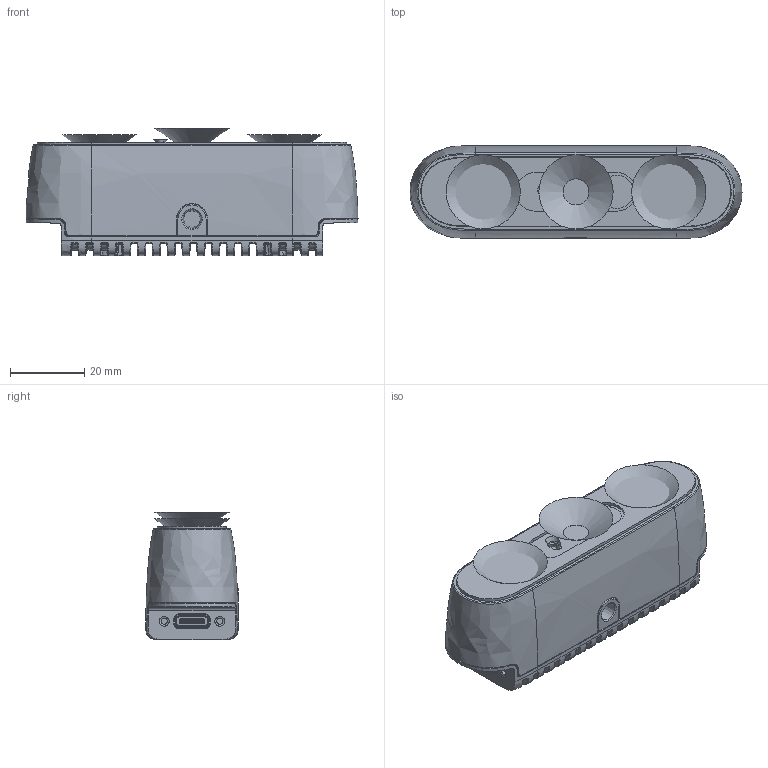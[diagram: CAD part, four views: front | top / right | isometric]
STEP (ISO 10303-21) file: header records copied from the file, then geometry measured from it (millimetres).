
FILE_DESCRIPTION(/* description */ (''),/* implementation_level */ '2;1');
FILE_NAME(/* name */ '117892.stp',/* time_stamp */ '2026-05-28T09:16:57+02:00',/* author */ (''),/* organization */ (''),/* preprocessor_version */ 'ST-DEVELOPER v20',/* originating_system */ 'Autodesk Inventor 2024',/* authorisation */ '');
FILE_SCHEMA (('CONFIG_CONTROL_DESIGN'));
Products named in the file (1): 117892
Bounding box: 89.45 x 25.02 x 34.4 mm (x, y, z)
Volume: 54456.3 mm3; surface area: 16661.3 mm2
Topology: 1 solids, 8 shells, 1583 faces, 3934 edges, 2376 vertices
Faces by surface type: cylinder 524, plane 484, bspline 431, torus 92, cone 50, sphere 2
Full cylindrical faces by diameter (mm): 1.65 x2, 2.65 x2, 7 x1, 8.239 x1, 9 x1, 9.561 x1, 14.6 x2
Entity records: 110198 total; most frequent: CARTESIAN_POINT 73395, ORIENTED_EDGE 7850, DIRECTION 6680, EDGE_CURVE 3931, AXIS2_PLACEMENT_3D 2480, VERTEX_POINT 2376, LINE 1720, VECTOR 1720
